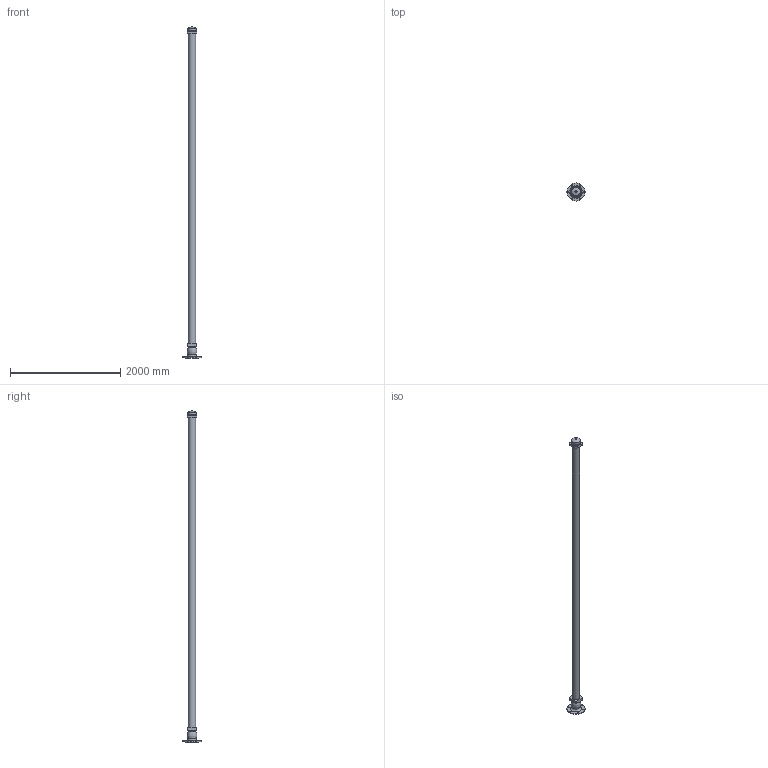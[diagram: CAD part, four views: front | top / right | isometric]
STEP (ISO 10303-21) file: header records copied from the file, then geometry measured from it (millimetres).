
FILE_DESCRIPTION(('STEP AP203'), '1');
FILE_NAME('Ãèäðàíò GPP 6000 ïîæàðíûé ïîäçåìíûé', '', ('UNSPECIFIED'), ('UNSPECIFIED'), 'ASCON STEP Converter 1.6', 'ASCON Math Kernel', '');
FILE_SCHEMA(('CONFIG_CONTROL_DESIGN'));
Length unit declared in the file: millimetre
Bounding box: 330 x 330 x 6022 mm (x, y, z)
Volume: 83087902.3 mm3; surface area: 2731909.7 mm2
Topology: 1 solids, 1 shells, 47 faces, 104 edges, 67 vertices
Faces by surface type: plane 26, cylinder 12, cone 7, torus 2
Full cylindrical faces by diameter (mm): 20 x1, 22 x6, 129 x1, 142 x1, 143 x1, 157.302 x1, 160 x1
Entity records: 1617 total; most frequent: DIRECTION 212, CARTESIAN_POINT 196, ORIENTED_EDGE 164, EDGE_LOOP 88, AXIS2_PLACEMENT_3D 82, EDGE_CURVE 82, VERTEX_POINT 66, COLOUR_RGB 48
